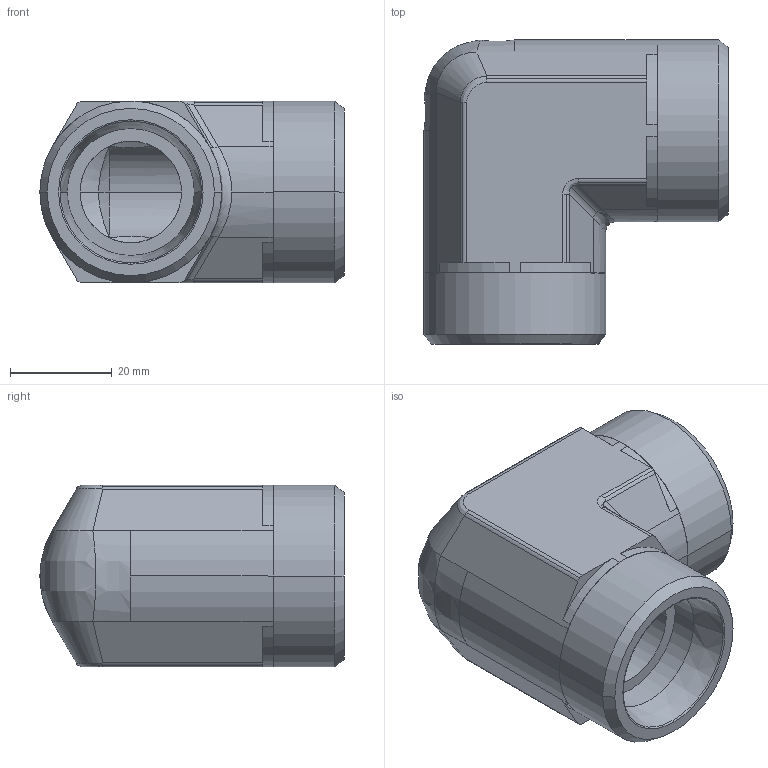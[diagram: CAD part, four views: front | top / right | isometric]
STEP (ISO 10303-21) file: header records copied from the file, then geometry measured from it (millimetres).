
FILE_DESCRIPTION((''),'2;1');
FILE_NAME('103821.stp','2007-10-31T11:51:41',(''),(''),'AutoCAD STEP 2000i','AutoCAD 2000i',', , ');
FILE_SCHEMA(('CONFIG_CONTROL_DESIGN'));
Length unit declared in the file: millimetre
Products named in the file (2): 103821.0; 3090#0
Assembly tree (1 placements, depth 2):
  103821.0
    3090#0
Bounding box: 59.91 x 59.91 x 35.82 mm (x, y, z)
Volume: 55820.6 mm3; surface area: 16391.1 mm2
Topology: 1 solids, 1 shells, 120 faces, 282 edges, 166 vertices
Faces by surface type: cylinder 52, plane 34, cone 20, bspline 14
Entity records: 4412 total; most frequent: CARTESIAN_POINT 1533, DIRECTION 621, ORIENTED_EDGE 564, EDGE_CURVE 282, AXIS2_PLACEMENT_3D 250, VERTEX_POINT 166, CIRCLE 124, EDGE_LOOP 124
